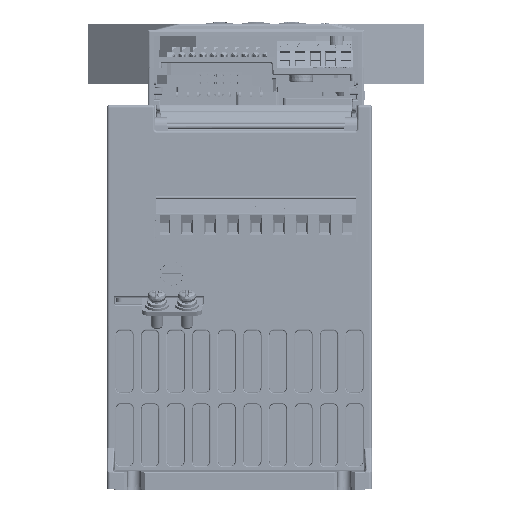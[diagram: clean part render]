
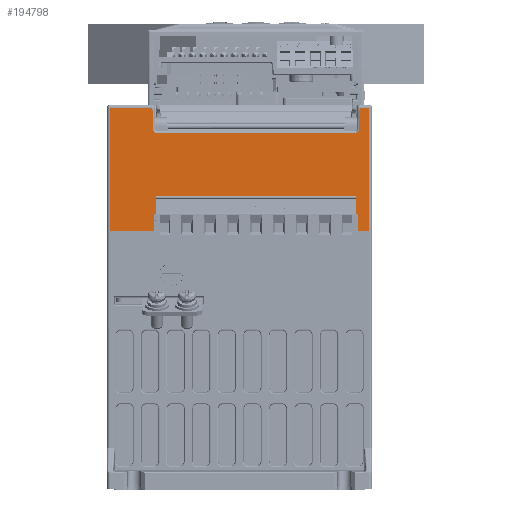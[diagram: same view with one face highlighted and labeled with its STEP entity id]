
A CAD part, front view. The second image highlights one B-rep face of the part: STEP entity #194798.
In plain terms, the highlighted planar face has unit normal (0, -1, 0).
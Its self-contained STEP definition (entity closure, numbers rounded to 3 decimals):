
#60168=DIRECTION('',(-0.048,0.,0.999));
#60169=VECTOR('',#60168,2.1);
#60170=CARTESIAN_POINT('',(-26.,-187.5,-36.3));
#60171=LINE('',#60170,#60169);
#60175=DIRECTION('',(-1.,0.,0.));
#60176=VECTOR('',#60175,2.8);
#60177=CARTESIAN_POINT('',(-26.1,-187.5,-34.202));
#60178=LINE('',#60177,#60176);
#60182=DIRECTION('',(-0.048,0.,-0.999));
#60183=VECTOR('',#60182,2.1);
#60184=CARTESIAN_POINT('',(-28.9,-187.5,-34.202));
#60185=LINE('',#60184,#60183);
#60189=DIRECTION('',(-1.,0.,0.));
#60190=VECTOR('',#60189,4.91);
#60191=CARTESIAN_POINT('',(-29.,-187.5,-36.3));
#60192=LINE('',#60191,#60190);
#60196=DIRECTION('',(0.016,0.,1.));
#60197=VECTOR('',#60196,5.501);
#60198=CARTESIAN_POINT('',(-33.999,-187.5,-41.8));
#60199=LINE('',#60198,#60197);
#60203=DIRECTION('',(0.,0.,-1.));
#60204=VECTOR('',#60203,41.);
#60205=CARTESIAN_POINT('',(-48.7,-187.5,-0.8));
#60206=LINE('',#60205,#60204);
#60210=DIRECTION('',(1.,0.,0.));
#60211=VECTOR('',#60210,14.265);
#60212=CARTESIAN_POINT('',(-48.7,-187.5,-0.8));
#60213=LINE('',#60212,#60211);
#60217=DIRECTION('',(0.017,0.,-1.));
#60218=VECTOR('',#60217,7.224);
#60219=CARTESIAN_POINT('',(-34.435,-187.5,-0.8));
#60220=LINE('',#60219,#60218);
#60224=CARTESIAN_POINT('',(-33.009,-187.5,-8.));
#60225=DIRECTION('',(0.,-1.,0.));
#60226=DIRECTION('',(-1.,0.,-0.017));
#60227=AXIS2_PLACEMENT_3D('',#60224,#60225,#60226);
#60232=DIRECTION('',(1.,0.,0.));
#60233=VECTOR('',#60232,66.017);
#60234=CARTESIAN_POINT('',(-33.009,-187.5,-9.3));
#60235=LINE('',#60234,#60233);
#60239=CARTESIAN_POINT('',(33.009,-187.5,-8.));
#60240=DIRECTION('',(0.,-1.,0.));
#60241=DIRECTION('',(0.,0.,-1.));
#60242=AXIS2_PLACEMENT_3D('',#60239,#60240,#60241);
#60247=DIRECTION('',(0.017,0.,1.));
#60248=VECTOR('',#60247,7.224);
#60249=CARTESIAN_POINT('',(34.308,-187.5,-8.023));
#60250=LINE('',#60249,#60248);
#60254=DIRECTION('',(1.,0.,0.));
#60255=VECTOR('',#60254,3.265);
#60256=CARTESIAN_POINT('',(34.435,-187.5,-0.8));
#60257=LINE('',#60256,#60255);
#60261=DIRECTION('',(0.,0.,-1.));
#60262=VECTOR('',#60261,41.);
#60263=CARTESIAN_POINT('',(37.7,-187.5,-0.8));
#60264=LINE('',#60263,#60262);
#60268=DIRECTION('',(-0.016,0.,1.));
#60269=VECTOR('',#60268,5.501);
#60270=CARTESIAN_POINT('',(33.959,-187.5,-41.8));
#60271=LINE('',#60270,#60269);
#60275=DIRECTION('',(-1.,0.,0.));
#60276=VECTOR('',#60275,4.92);
#60277=CARTESIAN_POINT('',(33.87,-187.5,-36.3));
#60278=LINE('',#60277,#60276);
#60282=DIRECTION('',(-0.048,0.,0.999));
#60283=VECTOR('',#60282,2.1);
#60284=CARTESIAN_POINT('',(28.95,-187.5,-36.3));
#60285=LINE('',#60284,#60283);
#60289=DIRECTION('',(-1.,0.,0.));
#60290=VECTOR('',#60289,2.8);
#60291=CARTESIAN_POINT('',(28.85,-187.5,-34.202));
#60292=LINE('',#60291,#60290);
#60296=DIRECTION('',(-0.048,0.,-0.999));
#60297=VECTOR('',#60296,2.1);
#60298=CARTESIAN_POINT('',(26.05,-187.5,-34.202));
#60299=LINE('',#60298,#60297);
#60303=DIRECTION('',(-1.,0.,0.));
#60304=VECTOR('',#60303,51.95);
#60305=CARTESIAN_POINT('',(25.95,-187.5,-36.3));
#60306=LINE('',#60305,#60304);
#61353=DIRECTION('',(1.,0.,0.));
#61354=VECTOR('',#61353,3.741);
#61355=CARTESIAN_POINT('',(33.959,-187.5,-41.8));
#61356=LINE('',#61355,#61354);
#61413=DIRECTION('',(1.,0.,0.));
#61414=VECTOR('',#61413,14.701);
#61415=CARTESIAN_POINT('',(-48.7,-187.5,-41.8));
#61416=LINE('',#61415,#61414);
#113505=CARTESIAN_POINT('',(37.7,-187.5,-41.8));
#113507=VERTEX_POINT('',#113505);
#113508=CARTESIAN_POINT('',(-48.7,-187.5,-41.8));
#113510=VERTEX_POINT('',#113508);
#118572=CARTESIAN_POINT('',(-48.7,-187.5,-0.8));
#118573=VERTEX_POINT('',#118572);
#118576=CARTESIAN_POINT('',(-34.435,-187.5,-0.8));
#118577=VERTEX_POINT('',#118576);
#118582=CARTESIAN_POINT('',(-34.308,-187.5,-8.023));
#118583=VERTEX_POINT('',#118582);
#118586=CARTESIAN_POINT('',(-33.009,-187.5,-9.3));
#118587=VERTEX_POINT('',#118586);
#118590=CARTESIAN_POINT('',(33.009,-187.5,-9.3));
#118591=VERTEX_POINT('',#118590);
#118594=CARTESIAN_POINT('',(34.308,-187.5,-8.023));
#118595=VERTEX_POINT('',#118594);
#118598=CARTESIAN_POINT('',(34.435,-187.5,-0.8));
#118599=VERTEX_POINT('',#118598);
#118604=CARTESIAN_POINT('',(37.7,-187.5,-0.8));
#118605=VERTEX_POINT('',#118604);
#118674=CARTESIAN_POINT('',(33.959,-187.5,-41.8));
#118676=VERTEX_POINT('',#118674);
#118678=CARTESIAN_POINT('',(-33.999,-187.5,-41.8));
#118680=VERTEX_POINT('',#118678);
#118682=CARTESIAN_POINT('',(33.87,-187.5,-36.3));
#118683=VERTEX_POINT('',#118682);
#118684=CARTESIAN_POINT('',(-33.91,-187.5,-36.3));
#118685=VERTEX_POINT('',#118684);
#118694=CARTESIAN_POINT('',(-26.,-187.5,-36.3));
#118695=CARTESIAN_POINT('',(-26.1,-187.5,-34.202));
#118696=VERTEX_POINT('',#118694);
#118697=VERTEX_POINT('',#118695);
#118698=CARTESIAN_POINT('',(-28.9,-187.5,-34.202));
#118699=VERTEX_POINT('',#118698);
#118700=CARTESIAN_POINT('',(-29.,-187.5,-36.3));
#118701=VERTEX_POINT('',#118700);
#118702=CARTESIAN_POINT('',(28.95,-187.5,-36.3));
#118703=CARTESIAN_POINT('',(28.85,-187.5,-34.202));
#118704=VERTEX_POINT('',#118702);
#118705=VERTEX_POINT('',#118703);
#118706=CARTESIAN_POINT('',(26.05,-187.5,-34.202));
#118707=VERTEX_POINT('',#118706);
#118708=CARTESIAN_POINT('',(25.95,-187.5,-36.3));
#118709=VERTEX_POINT('',#118708);
#194748=CARTESIAN_POINT('',(-49.5,-187.5,0.));
#194749=DIRECTION('',(0.,-1.,0.));
#194750=DIRECTION('',(1.,0.,0.));
#194751=AXIS2_PLACEMENT_3D('',#194748,#194749,#194750);
#194752=PLANE('',#194751);
#194754=ORIENTED_EDGE('',*,*,#194753,.T.);
#194756=ORIENTED_EDGE('',*,*,#194755,.T.);
#194758=ORIENTED_EDGE('',*,*,#194757,.T.);
#194760=ORIENTED_EDGE('',*,*,#194759,.T.);
#194762=ORIENTED_EDGE('',*,*,#194761,.F.);
#194764=ORIENTED_EDGE('',*,*,#194763,.F.);
#194765=ORIENTED_EDGE('',*,*,#194740,.F.);
#194767=ORIENTED_EDGE('',*,*,#194766,.T.);
#194769=ORIENTED_EDGE('',*,*,#194768,.T.);
#194771=ORIENTED_EDGE('',*,*,#194770,.T.);
#194773=ORIENTED_EDGE('',*,*,#194772,.T.);
#194775=ORIENTED_EDGE('',*,*,#194774,.T.);
#194777=ORIENTED_EDGE('',*,*,#194776,.T.);
#194779=ORIENTED_EDGE('',*,*,#194778,.T.);
#194781=ORIENTED_EDGE('',*,*,#194780,.T.);
#194783=ORIENTED_EDGE('',*,*,#194782,.F.);
#194785=ORIENTED_EDGE('',*,*,#194784,.T.);
#194787=ORIENTED_EDGE('',*,*,#194786,.T.);
#194789=ORIENTED_EDGE('',*,*,#194788,.T.);
#194791=ORIENTED_EDGE('',*,*,#194790,.T.);
#194793=ORIENTED_EDGE('',*,*,#194792,.T.);
#194795=ORIENTED_EDGE('',*,*,#194794,.T.);
#194796=EDGE_LOOP('',(#194754,#194756,#194758,#194760,#194762,#194764,#194765,
#194767,#194769,#194771,#194773,#194775,#194777,#194779,#194781,#194783,#194785,
#194787,#194789,#194791,#194793,#194795));
#194797=FACE_OUTER_BOUND('',#194796,.F.);
#194798=ADVANCED_FACE('',(#194797),#194752,.T.);
#60228=CIRCLE('',#60227,1.3);
#60243=CIRCLE('',#60242,1.3);
#194740=EDGE_CURVE('',#118573,#113510,#60206,.T.);
#194753=EDGE_CURVE('',#118696,#118697,#60171,.T.);
#194755=EDGE_CURVE('',#118697,#118699,#60178,.T.);
#194757=EDGE_CURVE('',#118699,#118701,#60185,.T.);
#194759=EDGE_CURVE('',#118701,#118685,#60192,.T.);
#194761=EDGE_CURVE('',#118680,#118685,#60199,.T.);
#194763=EDGE_CURVE('',#113510,#118680,#61416,.T.);
#194766=EDGE_CURVE('',#118573,#118577,#60213,.T.);
#194768=EDGE_CURVE('',#118577,#118583,#60220,.T.);
#194770=EDGE_CURVE('',#118583,#118587,#60228,.T.);
#194772=EDGE_CURVE('',#118587,#118591,#60235,.T.);
#194774=EDGE_CURVE('',#118591,#118595,#60243,.T.);
#194776=EDGE_CURVE('',#118595,#118599,#60250,.T.);
#194778=EDGE_CURVE('',#118599,#118605,#60257,.T.);
#194780=EDGE_CURVE('',#118605,#113507,#60264,.T.);
#194782=EDGE_CURVE('',#118676,#113507,#61356,.T.);
#194784=EDGE_CURVE('',#118676,#118683,#60271,.T.);
#194786=EDGE_CURVE('',#118683,#118704,#60278,.T.);
#194788=EDGE_CURVE('',#118704,#118705,#60285,.T.);
#194790=EDGE_CURVE('',#118705,#118707,#60292,.T.);
#194792=EDGE_CURVE('',#118707,#118709,#60299,.T.);
#194794=EDGE_CURVE('',#118709,#118696,#60306,.T.);
